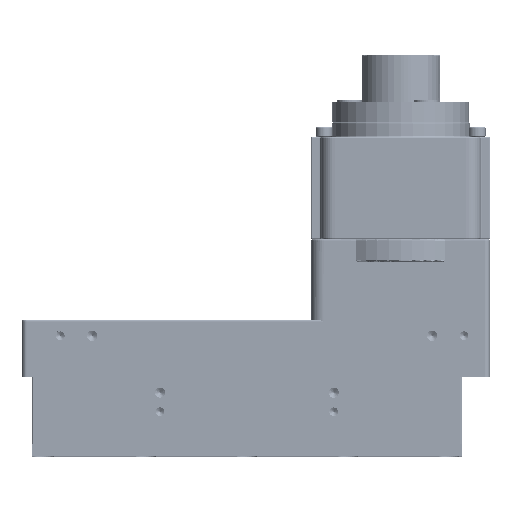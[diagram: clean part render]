
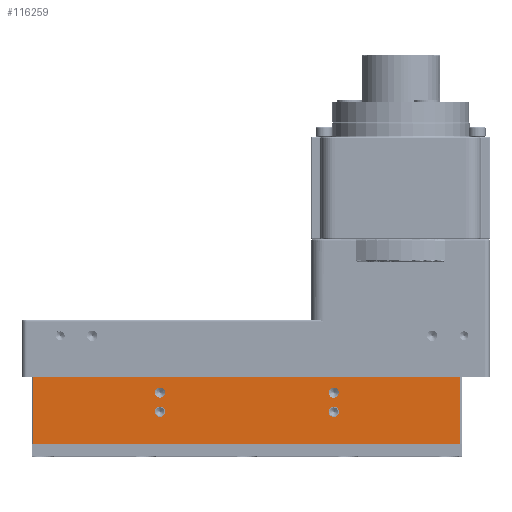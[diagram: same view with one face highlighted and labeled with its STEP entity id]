
A CAD part, top view. The second image highlights one B-rep face of the part: STEP entity #116259.
In plain terms, the highlighted planar face has unit normal (0, 0, 1).
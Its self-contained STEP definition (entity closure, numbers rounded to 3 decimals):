
#322 = CARTESIAN_POINT ( 'NONE',  ( 133.283, -33.675, 11.51 ) ) ;
#3346 = CARTESIAN_POINT ( 'NONE',  ( 236.283, -73.675, 11.51 ) ) ;
#3603 = VERTEX_POINT ( 'NONE', #3346 ) ;
#9489 = DIRECTION ( 'NONE',  ( 0., 0., 1. ) ) ;
#9678 = EDGE_LOOP ( 'NONE', ( #85943, #93551 ) ) ;
#12253 = EDGE_CURVE ( 'NONE', #3603, #280832, #314830, .T. ) ;
#16687 = LINE ( 'NONE', #264662, #94455 ) ;
#24293 = AXIS2_PLACEMENT_3D ( 'NONE', #168343, #175510, #31547 ) ;
#25847 = VERTEX_POINT ( 'NONE', #103778 ) ;
#26882 = EDGE_LOOP ( 'NONE', ( #173685, #67030 ) ) ;
#31547 = DIRECTION ( 'NONE',  ( 1., 0., 0. ) ) ;
#37414 = ORIENTED_EDGE ( 'NONE', *, *, #221806, .F. ) ;
#40948 = CIRCLE ( 'NONE', #268195, 4. ) ;
#48224 = ORIENTED_EDGE ( 'NONE', *, *, #328074, .F. ) ;
#50645 = FACE_BOUND ( 'NONE', #26882, .T. ) ;
#53544 = AXIS2_PLACEMENT_3D ( 'NONE', #212641, #156124, #289265 ) ;
#54150 = AXIS2_PLACEMENT_3D ( 'NONE', #118947, #9489, #230158 ) ;
#57385 = PLANE ( 'NONE',  #277180 ) ;
#65307 = VERTEX_POINT ( 'NONE', #219532 ) ;
#67030 = ORIENTED_EDGE ( 'NONE', *, *, #111534, .F. ) ;
#77913 = CARTESIAN_POINT ( 'NONE',  ( -97.717, -21.675, 11.51 ) ) ;
#78680 = CIRCLE ( 'NONE', #311577, 4. ) ;
#82445 = CIRCLE ( 'NONE', #233887, 4. ) ;
#85943 = ORIENTED_EDGE ( 'NONE', *, *, #244058, .F. ) ;
#86571 = FACE_BOUND ( 'NONE', #317079, .T. ) ;
#87666 = VECTOR ( 'NONE', #345766, 1000. ) ;
#87762 = EDGE_CURVE ( 'NONE', #314538, #280832, #16687, .T. ) ;
#88324 = CIRCLE ( 'NONE', #24293, 4. ) ;
#92200 = CIRCLE ( 'NONE', #336839, 4. ) ;
#93551 = ORIENTED_EDGE ( 'NONE', *, *, #204228, .F. ) ;
#94455 = VECTOR ( 'NONE', #290217, 1000. ) ;
#97957 = CARTESIAN_POINT ( 'NONE',  ( 1.283, -33.675, 11.51 ) ) ;
#100205 = CARTESIAN_POINT ( 'NONE',  ( 137.283, -48.675, 11.51 ) ) ;
#100984 = CARTESIAN_POINT ( 'NONE',  ( -98.717, -21.675, 11.51 ) ) ;
#103778 = CARTESIAN_POINT ( 'NONE',  ( 236.283, -21.675, 11.51 ) ) ;
#106736 = ORIENTED_EDGE ( 'NONE', *, *, #284888, .F. ) ;
#110863 = VECTOR ( 'NONE', #314557, 1000. ) ;
#111534 = EDGE_CURVE ( 'NONE', #65307, #117537, #78680, .T. ) ;
#116259 = ADVANCED_FACE ( 'NONE', ( #86571, #132732, #50645, #245754, #254249 ), #57385, .F. ) ;
#116920 = CARTESIAN_POINT ( 'NONE',  ( 141.283, -33.675, 11.51 ) ) ;
#117537 = VERTEX_POINT ( 'NONE', #295041 ) ;
#117995 = CARTESIAN_POINT ( 'NONE',  ( 237.283, -73.675, 11.51 ) ) ;
#118947 = CARTESIAN_POINT ( 'NONE',  ( 137.283, -33.675, 11.51 ) ) ;
#132732 = FACE_BOUND ( 'NONE', #9678, .T. ) ;
#141277 = CARTESIAN_POINT ( 'NONE',  ( -98.717, -21.675, 11.51 ) ) ;
#148459 = LINE ( 'NONE', #100984, #208596 ) ;
#155225 = DIRECTION ( 'NONE',  ( 0., 0., 1. ) ) ;
#156124 = DIRECTION ( 'NONE',  ( 0., 0., 1. ) ) ;
#158951 = CARTESIAN_POINT ( 'NONE',  ( 1.283, -48.675, 11.51 ) ) ;
#161881 = DIRECTION ( 'NONE',  ( -1., 0., 0. ) ) ;
#168343 = CARTESIAN_POINT ( 'NONE',  ( 137.283, -48.675, 11.51 ) ) ;
#173685 = ORIENTED_EDGE ( 'NONE', *, *, #329597, .F. ) ;
#175510 = DIRECTION ( 'NONE',  ( 0., 0., 1. ) ) ;
#176889 = ORIENTED_EDGE ( 'NONE', *, *, #200712, .T. ) ;
#179350 = CARTESIAN_POINT ( 'NONE',  ( -97.717, -73.675, 11.51 ) ) ;
#180777 = DIRECTION ( 'NONE',  ( 1., 0., 0. ) ) ;
#189497 = DIRECTION ( 'NONE',  ( 0., 0., 1. ) ) ;
#191801 = EDGE_LOOP ( 'NONE', ( #106736, #48224 ) ) ;
#193303 = CIRCLE ( 'NONE', #53544, 4. ) ;
#196142 = ORIENTED_EDGE ( 'NONE', *, *, #233794, .F. ) ;
#198396 = ORIENTED_EDGE ( 'NONE', *, *, #87762, .T. ) ;
#200712 = EDGE_CURVE ( 'NONE', #3603, #25847, #234298, .T. ) ;
#203384 = CARTESIAN_POINT ( 'NONE',  ( 236.283, -21.675, 11.51 ) ) ;
#204228 = EDGE_CURVE ( 'NONE', #327269, #277384, #193303, .T. ) ;
#208596 = VECTOR ( 'NONE', #259654, 1000. ) ;
#209953 = CARTESIAN_POINT ( 'NONE',  ( 137.283, -33.675, 11.51 ) ) ;
#212641 = CARTESIAN_POINT ( 'NONE',  ( 1.283, -33.675, 11.51 ) ) ;
#213683 = DIRECTION ( 'NONE',  ( 1., 0., 0. ) ) ;
#214828 = DIRECTION ( 'NONE',  ( 0., 0., -1. ) ) ;
#219532 = CARTESIAN_POINT ( 'NONE',  ( -2.717, -48.675, 11.51 ) ) ;
#221806 = EDGE_CURVE ( 'NONE', #314538, #25847, #148459, .T. ) ;
#230158 = DIRECTION ( 'NONE',  ( 1., 0., 0. ) ) ;
#233794 = EDGE_CURVE ( 'NONE', #264400, #349116, #281362, .T. ) ;
#233887 = AXIS2_PLACEMENT_3D ( 'NONE', #100205, #267884, #291628 ) ;
#234298 = LINE ( 'NONE', #203384, #110863 ) ;
#241894 = DIRECTION ( 'NONE',  ( 1., 0., 0. ) ) ;
#243306 = VERTEX_POINT ( 'NONE', #313003 ) ;
#244058 = EDGE_CURVE ( 'NONE', #277384, #327269, #92200, .T. ) ;
#245754 = FACE_BOUND ( 'NONE', #191801, .T. ) ;
#254249 = FACE_OUTER_BOUND ( 'NONE', #316911, .T. ) ;
#259654 = DIRECTION ( 'NONE',  ( 1., 0., 0. ) ) ;
#264400 = VERTEX_POINT ( 'NONE', #116920 ) ;
#264662 = CARTESIAN_POINT ( 'NONE',  ( -97.717, -21.675, 11.51 ) ) ;
#267884 = DIRECTION ( 'NONE',  ( 0., 0., 1. ) ) ;
#268195 = AXIS2_PLACEMENT_3D ( 'NONE', #209953, #155225, #180777 ) ;
#268379 = DIRECTION ( 'NONE',  ( 0., 0., 1. ) ) ;
#275130 = CARTESIAN_POINT ( 'NONE',  ( 1.283, -48.675, 11.51 ) ) ;
#277168 = CARTESIAN_POINT ( 'NONE',  ( 141.283, -48.675, 11.51 ) ) ;
#277180 = AXIS2_PLACEMENT_3D ( 'NONE', #141277, #214828, #161881 ) ;
#277384 = VERTEX_POINT ( 'NONE', #284680 ) ;
#280832 = VERTEX_POINT ( 'NONE', #179350 ) ;
#281362 = CIRCLE ( 'NONE', #54150, 4. ) ;
#284680 = CARTESIAN_POINT ( 'NONE',  ( 5.283, -33.675, 11.51 ) ) ;
#284888 = EDGE_CURVE ( 'NONE', #343292, #243306, #88324, .T. ) ;
#285743 = CARTESIAN_POINT ( 'NONE',  ( -2.717, -33.675, 11.51 ) ) ;
#289265 = DIRECTION ( 'NONE',  ( 1., 0., 0. ) ) ;
#290217 = DIRECTION ( 'NONE',  ( 0., -1., 0. ) ) ;
#291628 = DIRECTION ( 'NONE',  ( 1., 0., 0. ) ) ;
#295041 = CARTESIAN_POINT ( 'NONE',  ( 5.283, -48.675, 11.51 ) ) ;
#297443 = EDGE_CURVE ( 'NONE', #349116, #264400, #40948, .T. ) ;
#300714 = DIRECTION ( 'NONE',  ( 1., 0., 0. ) ) ;
#311577 = AXIS2_PLACEMENT_3D ( 'NONE', #275130, #189497, #300714 ) ;
#313003 = CARTESIAN_POINT ( 'NONE',  ( 133.283, -48.675, 11.51 ) ) ;
#314538 = VERTEX_POINT ( 'NONE', #77913 ) ;
#314557 = DIRECTION ( 'NONE',  ( 0., 1., 0. ) ) ;
#314830 = LINE ( 'NONE', #117995, #87666 ) ;
#316911 = EDGE_LOOP ( 'NONE', ( #350939, #176889, #37414, #198396 ) ) ;
#317079 = EDGE_LOOP ( 'NONE', ( #196142, #341034 ) ) ;
#327269 = VERTEX_POINT ( 'NONE', #285743 ) ;
#328074 = EDGE_CURVE ( 'NONE', #243306, #343292, #82445, .T. ) ;
#328262 = AXIS2_PLACEMENT_3D ( 'NONE', #158951, #268379, #213683 ) ;
#329597 = EDGE_CURVE ( 'NONE', #117537, #65307, #351686, .T. ) ;
#336839 = AXIS2_PLACEMENT_3D ( 'NONE', #97957, #354920, #241894 ) ;
#341034 = ORIENTED_EDGE ( 'NONE', *, *, #297443, .F. ) ;
#343292 = VERTEX_POINT ( 'NONE', #277168 ) ;
#345766 = DIRECTION ( 'NONE',  ( -1., 0., 0. ) ) ;
#349116 = VERTEX_POINT ( 'NONE', #322 ) ;
#350939 = ORIENTED_EDGE ( 'NONE', *, *, #12253, .F. ) ;
#351686 = CIRCLE ( 'NONE', #328262, 4. ) ;
#354920 = DIRECTION ( 'NONE',  ( 0., 0., 1. ) ) ;
